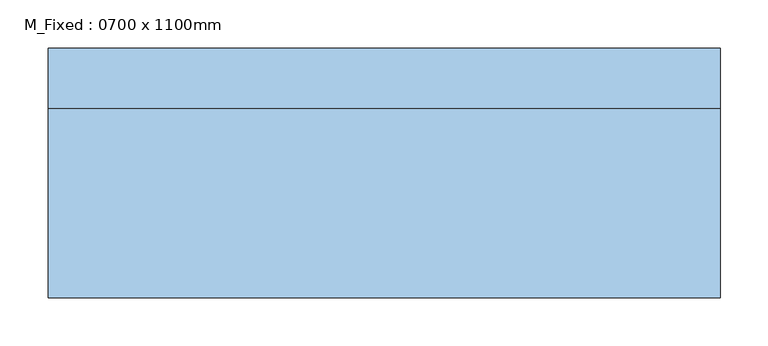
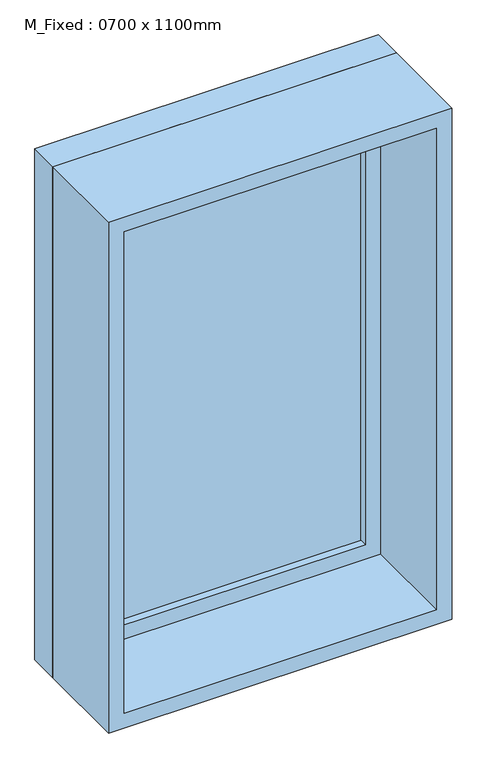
"""IFC4 building model written with IfcOpenShell, lengths in millimetres: window geometry, M_Fixed : 0700 x 1100mm."""

from ifc_helpers import new_model, si_unit, frame, origin, place, context, project, spatial, polyline, outline, extrude, source, transform, mapped, element, save


def m_fixed_0700_x_1100mm_63e92665(model_context):
    return source(origin(), model_context, "Body", "SweptSolid", [
        extrude(outline(polyline([(-287.0, 108.0), (287.0, 108.0), (287.0, 96.0), (-287.0, 96.0), (-287.0, 108.0)])), frame((0.0, 0.0, 978.0), z_axis=(0.0, 0.0, 1.0), x_axis=(1.0, 0.0, 0.0)), (0.0, 0.0, 1.0), 974.0),
        extrude(outline(polyline([(1996.0, -331.0), (934.0, -331.0), (934.0, 331.0), (1996.0, 331.0), (1996.0, -331.0)]), holes=[polyline([(1952.0, -287.0), (1952.0, 287.0), (978.0, 287.0), (978.0, -287.0), (1952.0, -287.0)])]), frame((0.0, 80.0, 0.0), z_axis=(0.0, 1.0, 0.0), x_axis=(0.0, 0.0, 1.0)), (0.0, 0.0, 1.0), 44.0),
        extrude(outline(polyline([(2015.0, -350.0), (915.0, -350.0), (915.0, 350.0), (2015.0, 350.0), (2015.0, -350.0)]), holes=[polyline([(1996.0, -331.0), (1996.0, 331.0), (934.0, 331.0), (934.0, -331.0), (1996.0, -331.0)])]), frame((0.0, 80.0, 0.0), z_axis=(0.0, 1.0, 0.0), x_axis=(0.0, 0.0, 1.0)), (0.0, 0.0, 1.0), 63.0),
        extrude(outline(polyline([(2015.0, -350.0), (915.0, -350.0), (915.0, 350.0), (2015.0, 350.0), (2015.0, -350.0)]), holes=[polyline([(1983.0, -318.0), (1983.0, 318.0), (947.0, 318.0), (947.0, -318.0), (1983.0, -318.0)])]), frame((0.0, -117.0, 0.0), z_axis=(0.0, 1.0, 0.0), x_axis=(0.0, 0.0, 1.0)), (0.0, 0.0, 1.0), 197.0),
    ])


if __name__ == "__main__":
    model = new_model("IFC4")
    model_context = context("Model", 3, world=origin())
    ifc_project = project(units=[si_unit("LENGTHUNIT", "METRE", prefix="MILLI")], contexts=[model_context])
    site = spatial("IfcSite", under=ifc_project)
    building = spatial("IfcBuilding", under=site)
    placement = place(None, origin())
    m_fixed_0700_x_1100mm_shape = m_fixed_0700_x_1100mm_63e92665(model_context)
    element("IfcWindow", 1, ObjectType="M_Fixed : 0700 x 1100mm", at=placement, inside=building, context=model_context, shape_type="MappedRepresentation", body=[
        mapped(m_fixed_0700_x_1100mm_shape, transform((0.0, 0.0, 0.0), x_axis=(1.0, 0.0, 0.0), y_axis=(0.0, 1.0, 0.0), z_axis=(0.0, 0.0, 1.0))),
    ])
    save(model, "model.ifc")
